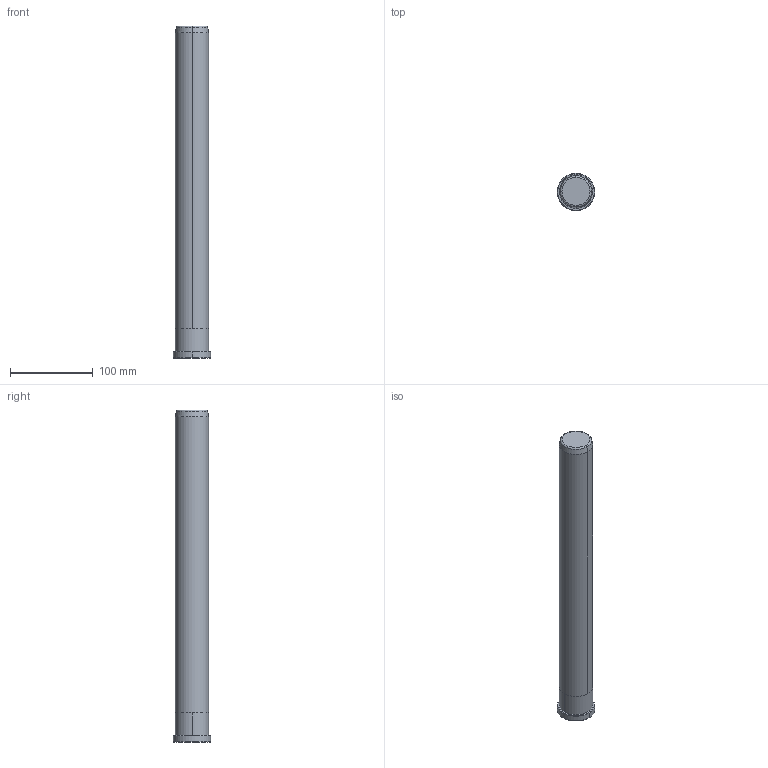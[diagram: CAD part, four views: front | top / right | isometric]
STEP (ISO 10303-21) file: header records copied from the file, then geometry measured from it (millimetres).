
FILE_DESCRIPTION((''),'2;1');
FILE_NAME('B80840400','2018-01-06T',('MANU'),(''),'PRO/ENGINEER BY PARAMETRIC TECHNOLOGY CORPORATION, 2012130','PRO/ENGINEER BY PARAMETRIC TECHNOLOGY CORPORATION, 2012130','');
FILE_SCHEMA(('CONFIG_CONTROL_DESIGN'));
Length unit declared in the file: millimetre
Products named in the file (1): B80840400
Bounding box: 45 x 45 x 400 mm (x, y, z)
Volume: 504566.9 mm3; surface area: 53231.5 mm2
Topology: 1 solids, 1 shells, 18 faces, 34 edges, 20 vertices
Faces by surface type: cone 6, cylinder 6, plane 4, torus 2
Entity records: 494 total; most frequent: DIRECTION 92, CARTESIAN_POINT 72, ORIENTED_EDGE 68, AXIS2_PLACEMENT_3D 40, EDGE_CURVE 34, CIRCLE 22, VERTEX_POINT 20, EDGE_LOOP 20
